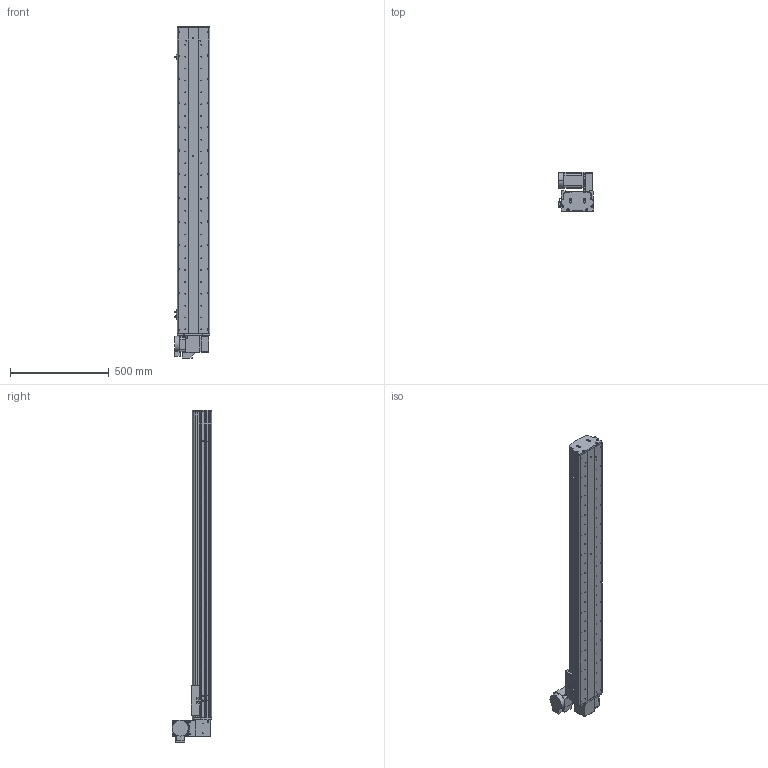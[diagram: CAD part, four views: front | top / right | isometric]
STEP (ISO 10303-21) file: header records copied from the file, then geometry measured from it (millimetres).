
FILE_DESCRIPTION (( 'STEP AP214' ), '1' );
FILE_NAME ('KSD165B-S1300-MRU-CM.STEP', '2017-10-17T02:46:09', ( '微软用户' ), ( '微软中国' ), 'SwSTEP 2.0', 'SolidWorks 2014', '' );
FILE_SCHEMA (( 'AUTOMOTIVE_DESIGN' ));
Length unit declared in the file: millimetre
Products named in the file (17): KSD165模组-后端板1-同步带; KSD165模组-同步带滑动座-最新版; KSD165B-S1300-MRU-CM; 130宽模组马达安装板连板上下折丝杆同步带; 130宽模组保护罩上下左右折-同步带; HTPA26S5M250-A-H8 750W萇儂蚚; HTPA26S5M250-A-H8 400W萇儂蚚 ; KSD165模组-同步带防尘盖1-1300行程; KSD165模组同步带底板-1300行程; 拸秶雄ん750W侜督萇儂; 165宽马达安装板同步带右; U倰嫖萇假蚾璃; U倰嫖萇EEㄜSX672; 覜茼え68遵圉猾敕; KSD165模组-同步带-防撞垫2; KSD165模组同步带-防撞垫1; KSD165耀郪-ヶ傷啣1-肮祭湍
Assembly tree (20 placements, depth 2):
  KSD165B-S1300-MRU-CM
    KSD165模组-同步带滑动座-最新版
    KSD165模组-后端板1-同步带
    KSD165耀郪-ヶ傷啣1-肮祭湍
    KSD165模组同步带-防撞垫1
    KSD165模组-同步带-防撞垫2
    覜茼え68遵圉猾敕
    U倰嫖萇EEㄜSX672  x3
    U倰嫖萇假蚾璃  x3
    165宽马达安装板同步带右
    拸秶雄ん750W侜督萇儂
    KSD165模组同步带底板-1300行程
    KSD165模组-同步带防尘盖1-1300行程
    HTPA26S5M250-A-H8 400W萇儂蚚 
    HTPA26S5M250-A-H8 750W萇儂蚚
    130宽模组保护罩上下左右折-同步带
    130宽模组马达安装板连板上下折丝杆同步带
Bounding box: 178.7 x 198 x 1680.5 mm (x, y, z)
Volume: 9273001.1 mm3; surface area: 2158361.6 mm2
Topology: 21 solids, 21 shells, 2015 faces, 5700 edges, 3724 vertices
Faces by surface type: cylinder 1311, plane 592, cone 112
Entity records: 66004 total; most frequent: CARTESIAN_POINT 13516, DIRECTION 10800, ORIENTED_EDGE 10060, EDGE_CURVE 5030, AXIS2_PLACEMENT_3D 4246, VERTEX_POINT 3316, CIRCLE 2428, VECTOR 2308
